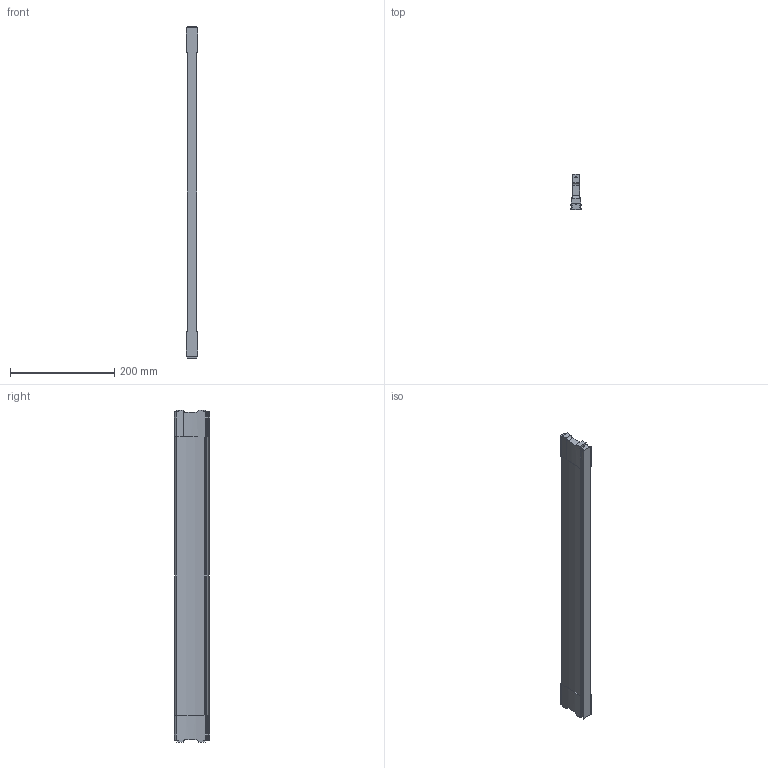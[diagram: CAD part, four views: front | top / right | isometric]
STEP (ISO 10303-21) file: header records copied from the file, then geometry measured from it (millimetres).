
FILE_DESCRIPTION (( 'STEP AP214' ), '1' );
FILE_NAME ('Traverse DWD NL660 Mass X628,4.step', '2010-09-21T13:16:46', ( 'grass' ), ( '' ), 'SwSTEP 2.0', 'SolidWorks 2010', '' );
FILE_SCHEMA (( 'AUTOMOTIVE_DESIGN' ));
Length unit declared in the file: millimetre
Products named in the file (1): Traverse DWD NL660 Mass X628,4
Bounding box: 21.4 x 67.5 x 637.4 mm (x, y, z)
Volume: 529027.8 mm3; surface area: 110596.3 mm2
Topology: 1 solids, 1 shells, 125 faces, 369 edges, 246 vertices
Faces by surface type: cylinder 68, plane 57
Entity records: 4377 total; most frequent: CARTESIAN_POINT 879, DIRECTION 753, ORIENTED_EDGE 738, EDGE_CURVE 369, AXIS2_PLACEMENT_3D 268, VERTEX_POINT 246, LINE 217, VECTOR 217
